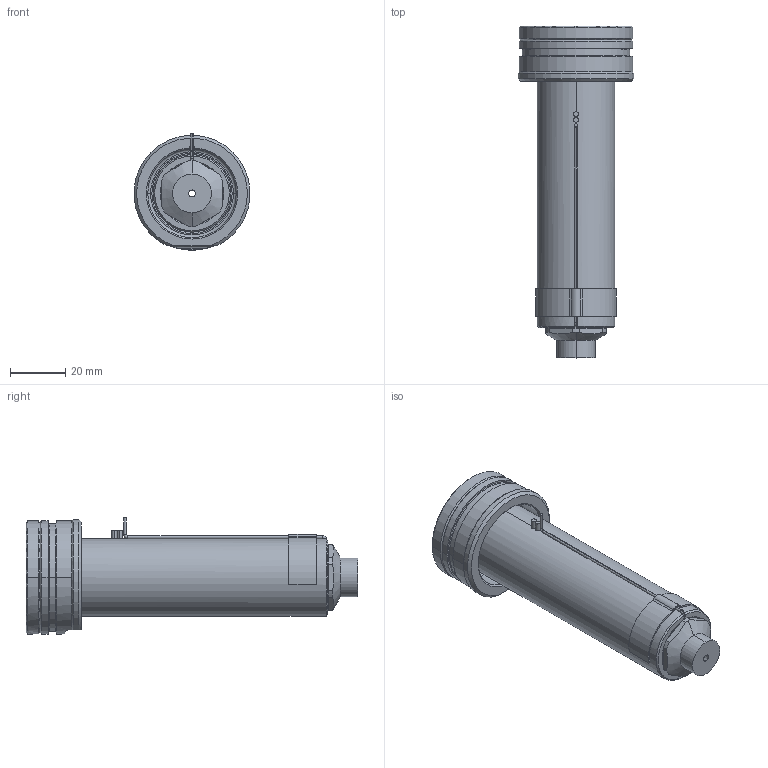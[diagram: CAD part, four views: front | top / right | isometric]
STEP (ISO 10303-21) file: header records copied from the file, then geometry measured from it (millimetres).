
FILE_DESCRIPTION((''),'2;1');
FILE_NAME('EO10_VG-FB_STD_100_SW','2024-02-19T13:33:17',('sundharh'),(''),'CREO PARAMETRIC BY PTC INC, 2023154','CREO PARAMETRIC BY PTC INC, 2023154','');
FILE_SCHEMA(('CONFIG_CONTROL_DESIGN'));
Length unit declared in the file: millimetre
Products named in the file (1): EO10_VG-FB_STD_100_SW
Bounding box: 41.85 x 120 x 42.02 mm (x, y, z)
Volume: 72341.8 mm3; surface area: 21143.4 mm2
Topology: 1 solids, 1 shells, 193 faces, 480 edges, 293 vertices
Faces by surface type: cylinder 71, plane 47, cone 37, torus 23, bspline 13, sphere 2
Entity records: 6678 total; most frequent: CARTESIAN_POINT 1996, DIRECTION 1035, ORIENTED_EDGE 956, EDGE_CURVE 478, AXIS2_PLACEMENT_3D 433, VERTEX_POINT 293, CIRCLE 253, EDGE_LOOP 209
